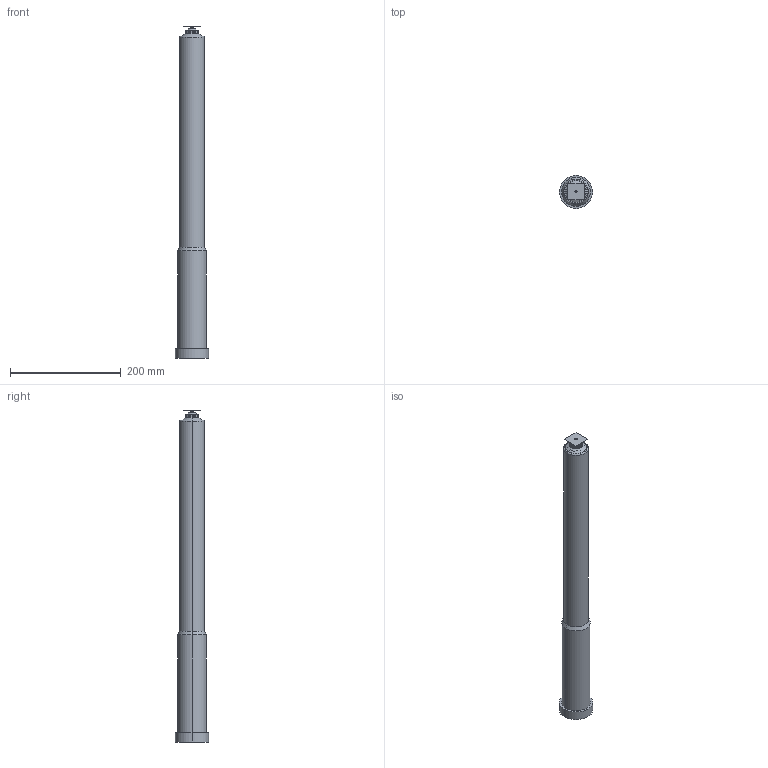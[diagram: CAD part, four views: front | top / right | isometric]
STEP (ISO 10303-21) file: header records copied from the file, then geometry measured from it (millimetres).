
FILE_DESCRIPTION (( 'STEP AP214' ), '1' );
FILE_NAME ('16E-06-600-VTW.STEP', '2021-07-14T13:44:52', ( '' ), ( '' ), 'SwSTEP 2.0', 'SolidWorks 2018', '' );
FILE_SCHEMA (( 'AUTOMOTIVE_DESIGN' ));
Length unit declared in the file: millimetre
Products named in the file (3): nozzle_16E-06-600-VTW; cutout_16E-06-600-VTW; 16E-06-600-VTW
Assembly tree (2 placements, depth 2):
  16E-06-600-VTW
    nozzle_16E-06-600-VTW
    cutout_16E-06-600-VTW
Bounding box: 60 x 60 x 600.65 mm (x, y, z)
Volume: 1049126.9 mm3; surface area: 309293 mm2
Topology: 1 solids, 4 shells, 354 faces, 1009 edges, 620 vertices
Faces by surface type: cylinder 138, plane 136, torus 45, cone 33, sphere 2
Entity records: 12494 total; most frequent: CARTESIAN_POINT 2821, DIRECTION 2169, ORIENTED_EDGE 2014, EDGE_CURVE 1009, AXIS2_PLACEMENT_3D 864, VERTEX_POINT 620, CIRCLE 504, LINE 441
